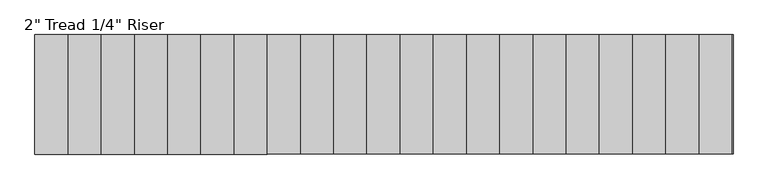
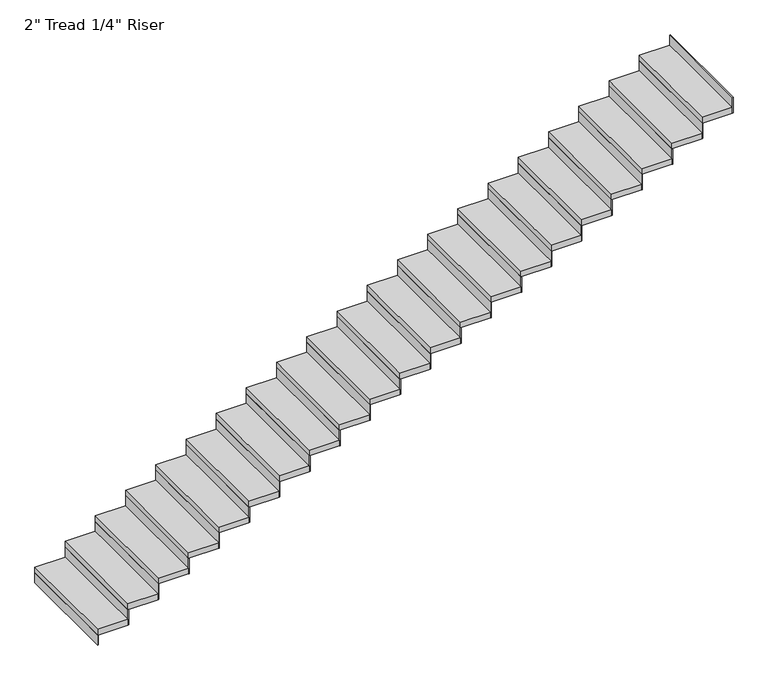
"""IFC4 building model written with IfcOpenShell, lengths in millimetres: stair flight geometry."""

from ifc_helpers import new_model, si_unit, frame, origin, origin_with_axes, place, context, project, spatial, polyline, outline, extrude, source, transform, mapped, element, save


def stair_flight_89541100(model_context):
    return source(origin(), model_context, "Body", "SweptSolid", [
        extrude(outline(polyline([(60758.6286682, 6677.964969), (60752.2786682, 6677.964969), (60752.2786682, 7592.364969), (60758.6286682, 7592.364969), (60758.6286682, 6677.964969)])), origin_with_axes(), (0.0, 0.0, 1.0), 87.7454545),
        extrude(outline(polyline([(61006.2786682, 7592.364969), (61006.2786682, 6677.964969), (60752.2786682, 6677.964969), (60752.2786682, 7592.364969), (61006.2786682, 7592.364969)])), frame((0.0, 0.0, 87.7454545), z_axis=(0.0, 0.0, 1.0), x_axis=(1.0, 0.0, 0.0)), (0.0, 0.0, 1.0), 50.8),
        extrude(outline(polyline([(61012.6286682, 6677.964969), (61006.2786682, 6677.964969), (61006.2786682, 7592.364969), (61012.6286682, 7592.364969), (61012.6286682, 6677.964969)])), frame((0.0, 0.0, 87.7454545), z_axis=(0.0, 0.0, 1.0), x_axis=(1.0, 0.0, 0.0)), (0.0, 0.0, 1.0), 138.5454545),
        extrude(outline(polyline([(61260.2786682, 7592.364969), (61260.2786682, 6677.964969), (61006.2786682, 6677.964969), (61006.2786682, 7592.364969), (61260.2786682, 7592.364969)])), frame((0.0, 0.0, 226.2909091), z_axis=(0.0, 0.0, 1.0), x_axis=(1.0, 0.0, 0.0)), (0.0, 0.0, 1.0), 50.8),
        extrude(outline(polyline([(61266.6286682, 6677.964969), (61260.2786682, 6677.964969), (61260.2786682, 7592.364969), (61266.6286682, 7592.364969), (61266.6286682, 6677.964969)])), frame((0.0, 0.0, 226.2909091), z_axis=(0.0, 0.0, 1.0), x_axis=(1.0, 0.0, 0.0)), (0.0, 0.0, 1.0), 138.5454545),
        extrude(outline(polyline([(61514.2786682, 7592.364969), (61514.2786682, 6677.964969), (61260.2786682, 6677.964969), (61260.2786682, 7592.364969), (61514.2786682, 7592.364969)])), frame((0.0, 0.0, 364.8363636), z_axis=(0.0, 0.0, 1.0), x_axis=(1.0, 0.0, 0.0)), (0.0, 0.0, 1.0), 50.8),
        extrude(outline(polyline([(61520.6286682, 6677.964969), (61514.2786682, 6677.964969), (61514.2786682, 7592.364969), (61520.6286682, 7592.364969), (61520.6286682, 6677.964969)])), frame((0.0, 0.0, 364.8363636), z_axis=(0.0, 0.0, 1.0), x_axis=(1.0, 0.0, 0.0)), (0.0, 0.0, 1.0), 138.5454545),
        extrude(outline(polyline([(61768.2786682, 7592.364969), (61768.2786682, 6677.964969), (61514.2786682, 6677.964969), (61514.2786682, 7592.364969), (61768.2786682, 7592.364969)])), frame((0.0, 0.0, 503.3818182), z_axis=(0.0, 0.0, 1.0), x_axis=(1.0, 0.0, 0.0)), (0.0, 0.0, 1.0), 50.8),
        extrude(outline(polyline([(61774.6286682, 6677.964969), (61768.2786682, 6677.964969), (61768.2786682, 7592.364969), (61774.6286682, 7592.364969), (61774.6286682, 6677.964969)])), frame((0.0, 0.0, 503.3818182), z_axis=(0.0, 0.0, 1.0), x_axis=(1.0, 0.0, 0.0)), (0.0, 0.0, 1.0), 138.5454545),
        extrude(outline(polyline([(62022.2786682, 7592.364969), (62022.2786682, 6677.964969), (61768.2786682, 6677.964969), (61768.2786682, 7592.364969), (62022.2786682, 7592.364969)])), frame((0.0, 0.0, 641.9272727), z_axis=(0.0, 0.0, 1.0), x_axis=(1.0, 0.0, 0.0)), (0.0, 0.0, 1.0), 50.8),
        extrude(outline(polyline([(62028.6286682, 6677.964969), (62022.2786682, 6677.964969), (62022.2786682, 7592.364969), (62028.6286682, 7592.364969), (62028.6286682, 6677.964969)])), frame((0.0, 0.0, 641.9272727), z_axis=(0.0, 0.0, 1.0), x_axis=(1.0, 0.0, 0.0)), (0.0, 0.0, 1.0), 138.5454545),
        extrude(outline(polyline([(62276.2786682, 7592.364969), (62276.2786682, 6677.964969), (62022.2786682, 6677.964969), (62022.2786682, 7592.364969), (62276.2786682, 7592.364969)])), frame((0.0, 0.0, 780.4727273), z_axis=(0.0, 0.0, 1.0), x_axis=(1.0, 0.0, 0.0)), (0.0, 0.0, 1.0), 50.8),
        extrude(outline(polyline([(62282.6286682, 6677.964969), (62276.2786682, 6677.964969), (62276.2786682, 7592.364969), (62282.6286682, 7592.364969), (62282.6286682, 6677.964969)])), frame((0.0, 0.0, 780.4727273), z_axis=(0.0, 0.0, 1.0), x_axis=(1.0, 0.0, 0.0)), (0.0, 0.0, 1.0), 138.5454545),
        extrude(outline(polyline([(62530.2786682, 7592.364969), (62530.2786682, 6677.964969), (62276.2786682, 6677.964969), (62276.2786682, 7592.364969), (62530.2786682, 7592.364969)])), frame((0.0, 0.0, 919.0181818), z_axis=(0.0, 0.0, 1.0), x_axis=(1.0, 0.0, 0.0)), (0.0, 0.0, 1.0), 50.8),
        extrude(outline(polyline([(62536.6286682, 6677.964969), (62530.2786682, 6677.964969), (62530.2786682, 7592.364969), (62536.6286682, 7592.364969), (62536.6286682, 6677.964969)])), frame((0.0, 0.0, 919.0181818), z_axis=(0.0, 0.0, 1.0), x_axis=(1.0, 0.0, 0.0)), (0.0, 0.0, 1.0), 138.5454545),
        extrude(outline(polyline([(62784.2786682, 7592.364969), (62784.2786682, 6677.964969), (62530.2786682, 6677.964969), (62530.2786682, 7592.364969), (62784.2786682, 7592.364969)])), frame((0.0, 0.0, 1057.5636364), z_axis=(0.0, 0.0, 1.0), x_axis=(1.0, 0.0, 0.0)), (0.0, 0.0, 1.0), 50.8),
        extrude(outline(polyline([(62790.6286682, 6677.964969), (62784.2786682, 6677.964969), (62784.2786682, 7592.364969), (62790.6286682, 7592.364969), (62790.6286682, 6677.964969)])), frame((0.0, 0.0, 1057.5636364), z_axis=(0.0, 0.0, 1.0), x_axis=(1.0, 0.0, 0.0)), (0.0, 0.0, 1.0), 138.5454545),
        extrude(outline(polyline([(63038.2786682, 7592.364969), (63038.2786682, 6677.964969), (62784.2786682, 6677.964969), (62784.2786682, 7592.364969), (63038.2786682, 7592.364969)])), frame((0.0, 0.0, 1196.1090909), z_axis=(0.0, 0.0, 1.0), x_axis=(1.0, 0.0, 0.0)), (0.0, 0.0, 1.0), 50.8),
        extrude(outline(polyline([(63044.6286682, 6677.964969), (63038.2786682, 6677.964969), (63038.2786682, 7592.364969), (63044.6286682, 7592.364969), (63044.6286682, 6677.964969)])), frame((0.0, 0.0, 1196.1090909), z_axis=(0.0, 0.0, 1.0), x_axis=(1.0, 0.0, 0.0)), (0.0, 0.0, 1.0), 138.5454545),
        extrude(outline(polyline([(63292.2786682, 7592.364969), (63292.2786682, 6677.964969), (63038.2786682, 6677.964969), (63038.2786682, 7592.364969), (63292.2786682, 7592.364969)])), frame((0.0, 0.0, 1334.6545455), z_axis=(0.0, 0.0, 1.0), x_axis=(1.0, 0.0, 0.0)), (0.0, 0.0, 1.0), 50.8),
        extrude(outline(polyline([(63298.6286682, 6677.964969), (63292.2786682, 6677.964969), (63292.2786682, 7592.364969), (63298.6286682, 7592.364969), (63298.6286682, 6677.964969)])), frame((0.0, 0.0, 1334.6545455), z_axis=(0.0, 0.0, 1.0), x_axis=(1.0, 0.0, 0.0)), (0.0, 0.0, 1.0), 138.5454545),
        extrude(outline(polyline([(63546.2786682, 7592.364969), (63546.2786682, 6677.964969), (63292.2786682, 6677.964969), (63292.2786682, 7592.364969), (63546.2786682, 7592.364969)])), frame((0.0, 0.0, 1473.2), z_axis=(0.0, 0.0, 1.0), x_axis=(1.0, 0.0, 0.0)), (0.0, 0.0, 1.0), 50.8),
        extrude(outline(polyline([(63552.6286682, 6677.964969), (63546.2786682, 6677.964969), (63546.2786682, 7592.364969), (63552.6286682, 7592.364969), (63552.6286682, 6677.964969)])), frame((0.0, 0.0, 1473.2), z_axis=(0.0, 0.0, 1.0), x_axis=(1.0, 0.0, 0.0)), (0.0, 0.0, 1.0), 138.5454545),
        extrude(outline(polyline([(63800.2786682, 7592.364969), (63800.2786682, 6677.964969), (63546.2786682, 6677.964969), (63546.2786682, 7592.364969), (63800.2786682, 7592.364969)])), frame((0.0, 0.0, 1611.7454545), z_axis=(0.0, 0.0, 1.0), x_axis=(1.0, 0.0, 0.0)), (0.0, 0.0, 1.0), 50.8),
        extrude(outline(polyline([(63806.6286682, 6677.964969), (63800.2786682, 6677.964969), (63800.2786682, 7592.364969), (63806.6286682, 7592.364969), (63806.6286682, 6677.964969)])), frame((0.0, 0.0, 1611.7454545), z_axis=(0.0, 0.0, 1.0), x_axis=(1.0, 0.0, 0.0)), (0.0, 0.0, 1.0), 138.5454545),
        extrude(outline(polyline([(64054.2786682, 7592.364969), (64054.2786682, 6677.964969), (63800.2786682, 6677.964969), (63800.2786682, 7592.364969), (64054.2786682, 7592.364969)])), frame((0.0, 0.0, 1750.2909091), z_axis=(0.0, 0.0, 1.0), x_axis=(1.0, 0.0, 0.0)), (0.0, 0.0, 1.0), 50.8),
        extrude(outline(polyline([(64060.6286682, 6677.964969), (64054.2786682, 6677.964969), (64054.2786682, 7592.364969), (64060.6286682, 7592.364969), (64060.6286682, 6677.964969)])), frame((0.0, 0.0, 1750.2909091), z_axis=(0.0, 0.0, 1.0), x_axis=(1.0, 0.0, 0.0)), (0.0, 0.0, 1.0), 138.5454545),
        extrude(outline(polyline([(64308.2786682, 7592.364969), (64308.2786682, 6677.964969), (64054.2786682, 6677.964969), (64054.2786682, 7592.364969), (64308.2786682, 7592.364969)])), frame((0.0, 0.0, 1888.8363636), z_axis=(0.0, 0.0, 1.0), x_axis=(1.0, 0.0, 0.0)), (0.0, 0.0, 1.0), 50.8),
        extrude(outline(polyline([(64314.6286682, 6677.964969), (64308.2786682, 6677.964969), (64308.2786682, 7592.364969), (64314.6286682, 7592.364969), (64314.6286682, 6677.964969)])), frame((0.0, 0.0, 1888.8363636), z_axis=(0.0, 0.0, 1.0), x_axis=(1.0, 0.0, 0.0)), (0.0, 0.0, 1.0), 138.5454545),
        extrude(outline(polyline([(64562.2786682, 7592.364969), (64562.2786682, 6677.964969), (64308.2786682, 6677.964969), (64308.2786682, 7592.364969), (64562.2786682, 7592.364969)])), frame((0.0, 0.0, 2027.3818182), z_axis=(0.0, 0.0, 1.0), x_axis=(1.0, 0.0, 0.0)), (0.0, 0.0, 1.0), 50.8),
        extrude(outline(polyline([(64568.6286682, 6677.964969), (64562.2786682, 6677.964969), (64562.2786682, 7592.364969), (64568.6286682, 7592.364969), (64568.6286682, 6677.964969)])), frame((0.0, 0.0, 2027.3818182), z_axis=(0.0, 0.0, 1.0), x_axis=(1.0, 0.0, 0.0)), (0.0, 0.0, 1.0), 138.5454545),
        extrude(outline(polyline([(64816.2786682, 7592.364969), (64816.2786682, 6677.964969), (64562.2786682, 6677.964969), (64562.2786682, 7592.364969), (64816.2786682, 7592.364969)])), frame((0.0, 0.0, 2165.9272727), z_axis=(0.0, 0.0, 1.0), x_axis=(1.0, 0.0, 0.0)), (0.0, 0.0, 1.0), 50.8),
        extrude(outline(polyline([(64822.6286682, 6677.964969), (64816.2786682, 6677.964969), (64816.2786682, 7592.364969), (64822.6286682, 7592.364969), (64822.6286682, 6677.964969)])), frame((0.0, 0.0, 2165.9272727), z_axis=(0.0, 0.0, 1.0), x_axis=(1.0, 0.0, 0.0)), (0.0, 0.0, 1.0), 138.5454545),
        extrude(outline(polyline([(65070.2786682, 7592.364969), (65070.2786682, 6677.964969), (64816.2786682, 6677.964969), (64816.2786682, 7592.364969), (65070.2786682, 7592.364969)])), frame((0.0, 0.0, 2304.4727273), z_axis=(0.0, 0.0, 1.0), x_axis=(1.0, 0.0, 0.0)), (0.0, 0.0, 1.0), 50.8),
        extrude(outline(polyline([(65076.6286682, 6677.964969), (65070.2786682, 6677.964969), (65070.2786682, 7592.364969), (65076.6286682, 7592.364969), (65076.6286682, 6677.964969)])), frame((0.0, 0.0, 2304.4727273), z_axis=(0.0, 0.0, 1.0), x_axis=(1.0, 0.0, 0.0)), (0.0, 0.0, 1.0), 138.5454545),
        extrude(outline(polyline([(65324.2786682, 7592.364969), (65324.2786682, 6677.964969), (65070.2786682, 6677.964969), (65070.2786682, 7592.364969), (65324.2786682, 7592.364969)])), frame((0.0, 0.0, 2443.0181818), z_axis=(0.0, 0.0, 1.0), x_axis=(1.0, 0.0, 0.0)), (0.0, 0.0, 1.0), 50.8),
        extrude(outline(polyline([(65330.6286682, 6677.964969), (65324.2786682, 6677.964969), (65324.2786682, 7592.364969), (65330.6286682, 7592.364969), (65330.6286682, 6677.964969)])), frame((0.0, 0.0, 2443.0181818), z_axis=(0.0, 0.0, 1.0), x_axis=(1.0, 0.0, 0.0)), (0.0, 0.0, 1.0), 138.5454545),
        extrude(outline(polyline([(65578.2786682, 7592.364969), (65578.2786682, 6677.964969), (65324.2786682, 6677.964969), (65324.2786682, 7592.364969), (65578.2786682, 7592.364969)])), frame((0.0, 0.0, 2581.5636364), z_axis=(0.0, 0.0, 1.0), x_axis=(1.0, 0.0, 0.0)), (0.0, 0.0, 1.0), 50.8),
        extrude(outline(polyline([(65584.6286682, 6677.964969), (65578.2786682, 6677.964969), (65578.2786682, 7592.364969), (65584.6286682, 7592.364969), (65584.6286682, 6677.964969)])), frame((0.0, 0.0, 2581.5636364), z_axis=(0.0, 0.0, 1.0), x_axis=(1.0, 0.0, 0.0)), (0.0, 0.0, 1.0), 138.5454545),
        extrude(outline(polyline([(65832.2786682, 7592.364969), (65832.2786682, 6677.964969), (65578.2786682, 6677.964969), (65578.2786682, 7592.364969), (65832.2786682, 7592.364969)])), frame((0.0, 0.0, 2720.1090909), z_axis=(0.0, 0.0, 1.0), x_axis=(1.0, 0.0, 0.0)), (0.0, 0.0, 1.0), 50.8),
        extrude(outline(polyline([(65838.6286682, 6677.964969), (65832.2786682, 6677.964969), (65832.2786682, 7592.364969), (65838.6286682, 7592.364969), (65838.6286682, 6677.964969)])), frame((0.0, 0.0, 2720.1090909), z_axis=(0.0, 0.0, 1.0), x_axis=(1.0, 0.0, 0.0)), (0.0, 0.0, 1.0), 138.5454545),
        extrude(outline(polyline([(66092.6286682, 6677.964969), (66086.2786682, 6677.964969), (66086.2786682, 7592.364969), (66092.6286682, 7592.364969), (66092.6286682, 6677.964969)])), frame((0.0, 0.0, 2858.6545455), z_axis=(0.0, 0.0, 1.0), x_axis=(1.0, 0.0, 0.0)), (0.0, 0.0, 1.0), 138.5454545),
        extrude(outline(polyline([(66086.2786682, 7592.364969), (66086.2786682, 6677.964969), (65832.2786682, 6677.964969), (65832.2786682, 7592.364969), (66086.2786682, 7592.364969)])), frame((0.0, 0.0, 2858.6545455), z_axis=(0.0, 0.0, 1.0), x_axis=(1.0, 0.0, 0.0)), (0.0, 0.0, 1.0), 50.8),
    ])


if __name__ == "__main__":
    model = new_model("IFC4")
    model_context = context("Model", 3, world=origin())
    ifc_project = project(units=[si_unit("LENGTHUNIT", "METRE", prefix="MILLI")], contexts=[model_context])
    site = spatial("IfcSite", under=ifc_project)
    building = spatial("IfcBuilding", under=site)
    placement = place(None, origin())
    stair_flight_shape = stair_flight_89541100(model_context)
    element("IfcStairFlight", 1, ObjectType="2\" Tread 1/4\" Riser", at=placement, inside=building, context=model_context, shape_type="MappedRepresentation", body=[
        mapped(stair_flight_shape, transform((0.0, 0.0, 0.0), x_axis=(1.0, 0.0, 0.0), y_axis=(0.0, 1.0, 0.0), z_axis=(0.0, 0.0, 1.0))),
    ])
    save(model, "model.ifc")
